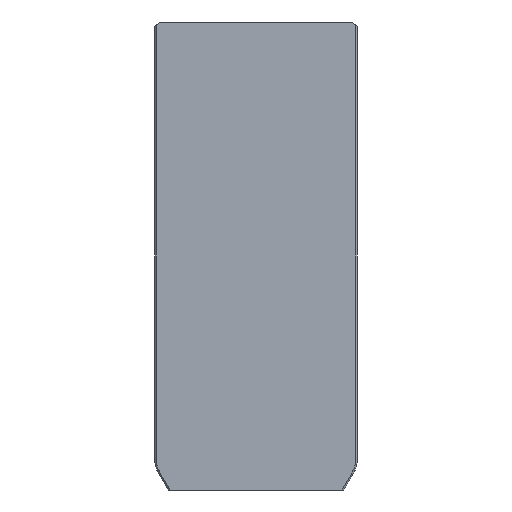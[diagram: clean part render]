
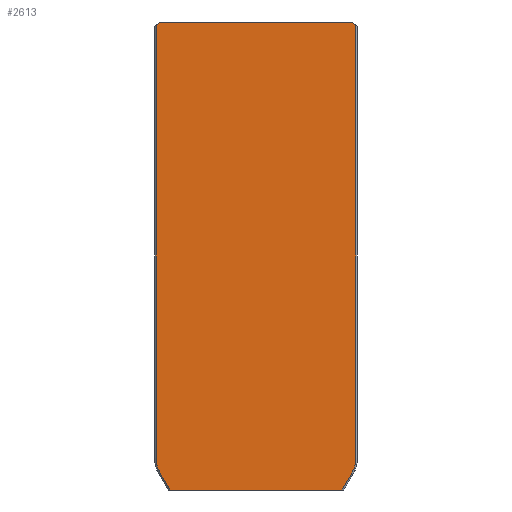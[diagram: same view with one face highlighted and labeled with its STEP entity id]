
A CAD part, left-side view. The second image highlights one B-rep face of the part: STEP entity #2613.
In plain terms, the highlighted planar face has unit normal (-1, 0, 0).
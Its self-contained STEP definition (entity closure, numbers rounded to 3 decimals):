
#271=VERTEX_POINT(' ',#272);
#272=CARTESIAN_POINT('',(-50.,62.,0.));
#273=VERTEX_POINT(' ',#274);
#274=CARTESIAN_POINT('',(-50.,-62.,0.));
#285=VERTEX_POINT(' ',#286);
#286=CARTESIAN_POINT('',(-50.,64.,-2.));
#295=VERTEX_POINT(' ',#296);
#296=CARTESIAN_POINT('',(-50.,64.,-150.));
#297=VERTEX_POINT(' ',#298);
#298=CARTESIAN_POINT('',(-50.,64.,-279.641));
#299=VERTEX_POINT(' ',#300);
#300=CARTESIAN_POINT('',(-50.,61.454,-289.141));
#301=VERTEX_POINT(' ',#302);
#302=CARTESIAN_POINT('',(-50.,55.185,-300.));
#305=VERTEX_POINT(' ',#306);
#306=CARTESIAN_POINT('',(-50.,-55.185,-300.));
#315=VERTEX_POINT(' ',#316);
#316=CARTESIAN_POINT('',(-50.,-64.,-2.));
#317=VERTEX_POINT(' ',#318);
#318=CARTESIAN_POINT('',(-50.,-61.454,-289.141));
#319=VERTEX_POINT(' ',#320);
#320=CARTESIAN_POINT('',(-50.,-64.,-279.641));
#321=VERTEX_POINT(' ',#322);
#322=CARTESIAN_POINT('',(-50.,-64.,-150.));
#1116=LINE('',#1117,#1118);
#1117=CARTESIAN_POINT('',(-50.,65.12,0.));
#1118=VECTOR('',#1119,1.);
#1119=DIRECTION('',(0.,-1.,0.));
#1120=EDGE_CURVE(' ',#271,#273,#1116,.T.);
#1186=LINE('',#1187,#1188);
#1187=CARTESIAN_POINT('',(-50.,31.,31.));
#1188=VECTOR('',#1189,1.);
#1189=DIRECTION('',(0.,0.707,-0.707));
#1190=EDGE_CURVE(' ',#285,#271,#1186,.F.);
#1242=LINE('',#1243,#1244);
#1243=CARTESIAN_POINT('',(-50.,64.,-150.));
#1244=VECTOR('',#1245,1.);
#1245=DIRECTION('',(0.,0.,1.));
#1246=EDGE_CURVE(' ',#295,#285,#1242,.T.);
#1252=LINE('',#1253,#1254);
#1253=CARTESIAN_POINT('',(-50.,64.,-279.641));
#1254=VECTOR('',#1255,1.);
#1255=DIRECTION('',(0.,0.,1.));
#1256=EDGE_CURVE(' ',#297,#295,#1252,.T.);
#1262=CIRCLE('',#1263,19.);
#1263=AXIS2_PLACEMENT_3D('',#1264,#1265,#1266);
#1264=CARTESIAN_POINT('',(-50.,45.,-279.641));
#1265=DIRECTION('',(1.,0.,0.));
#1266=DIRECTION('',(0.,-0.966,0.259));
#1267=EDGE_CURVE(' ',#299,#297,#1262,.T.);
#1273=LINE('',#1274,#1275);
#1274=CARTESIAN_POINT('',(-50.,52.645,-304.399));
#1275=VECTOR('',#1276,1.);
#1276=DIRECTION('',(0.,0.5,0.866));
#1277=EDGE_CURVE(' ',#301,#299,#1273,.T.);
#1283=LINE('',#1284,#1285);
#1284=CARTESIAN_POINT('',(-50.,65.12,-300.));
#1285=VECTOR('',#1286,1.);
#1286=DIRECTION('',(0.,-1.,0.));
#1287=EDGE_CURVE(' ',#305,#301,#1283,.F.);
#1339=LINE('',#1340,#1341);
#1340=CARTESIAN_POINT('',(-50.,-31.,31.));
#1341=VECTOR('',#1342,1.);
#1342=DIRECTION('',(0.,0.707,0.707));
#1343=EDGE_CURVE(' ',#273,#315,#1339,.F.);
#1344=LINE('',#1345,#1346);
#1345=CARTESIAN_POINT('',(-50.,-61.454,-289.141));
#1346=VECTOR('',#1347,1.);
#1347=DIRECTION('',(0.,0.5,-0.866));
#1348=EDGE_CURVE(' ',#317,#305,#1344,.T.);
#1349=CIRCLE('',#1350,19.);
#1350=AXIS2_PLACEMENT_3D('',#1351,#1352,#1353);
#1351=CARTESIAN_POINT('',(-50.,-45.,-279.641));
#1352=DIRECTION('',(1.,0.,0.));
#1353=DIRECTION('',(0.,0.966,0.259));
#1354=EDGE_CURVE(' ',#319,#317,#1349,.T.);
#1355=LINE('',#1356,#1357);
#1356=CARTESIAN_POINT('',(-50.,-64.,-150.));
#1357=VECTOR('',#1358,1.);
#1358=DIRECTION('',(0.,0.,-1.));
#1359=EDGE_CURVE(' ',#321,#319,#1355,.T.);
#1360=LINE('',#1361,#1362);
#1361=CARTESIAN_POINT('',(-50.,-64.,2.657));
#1362=VECTOR('',#1363,1.);
#1363=DIRECTION('',(0.,0.,-1.));
#1364=EDGE_CURVE(' ',#315,#321,#1360,.T.);
#2594=ORIENTED_EDGE('',*,*,#1348,.F.);
#2595=ORIENTED_EDGE('',*,*,#1354,.F.);
#2596=ORIENTED_EDGE('',*,*,#1359,.F.);
#2597=ORIENTED_EDGE('',*,*,#1364,.F.);
#2598=ORIENTED_EDGE('',*,*,#1343,.F.);
#2599=ORIENTED_EDGE('',*,*,#1120,.F.);
#2600=ORIENTED_EDGE('',*,*,#1190,.F.);
#2601=ORIENTED_EDGE('',*,*,#1246,.F.);
#2602=ORIENTED_EDGE('',*,*,#1256,.F.);
#2603=ORIENTED_EDGE('',*,*,#1267,.F.);
#2604=ORIENTED_EDGE('',*,*,#1277,.F.);
#2605=ORIENTED_EDGE('',*,*,#1287,.F.);
#2606=EDGE_LOOP('',(#2594,#2595,#2596,#2597,#2598,#2599,#2600,#2601,#2602,#2603,#2604,#2605));
#2607=FACE_OUTER_BOUND('',#2606,.T.);
#2608=PLANE('',#2609);
#2609=AXIS2_PLACEMENT_3D('',#2610,#2611,#2612);
#2610=CARTESIAN_POINT('',(-50.,0.,0.));
#2611=DIRECTION('',(-1.,0.,0.));
#2612=DIRECTION('',(0.,0.,-1.));
#2613=ADVANCED_FACE('',(#2607),#2608,.T.);
